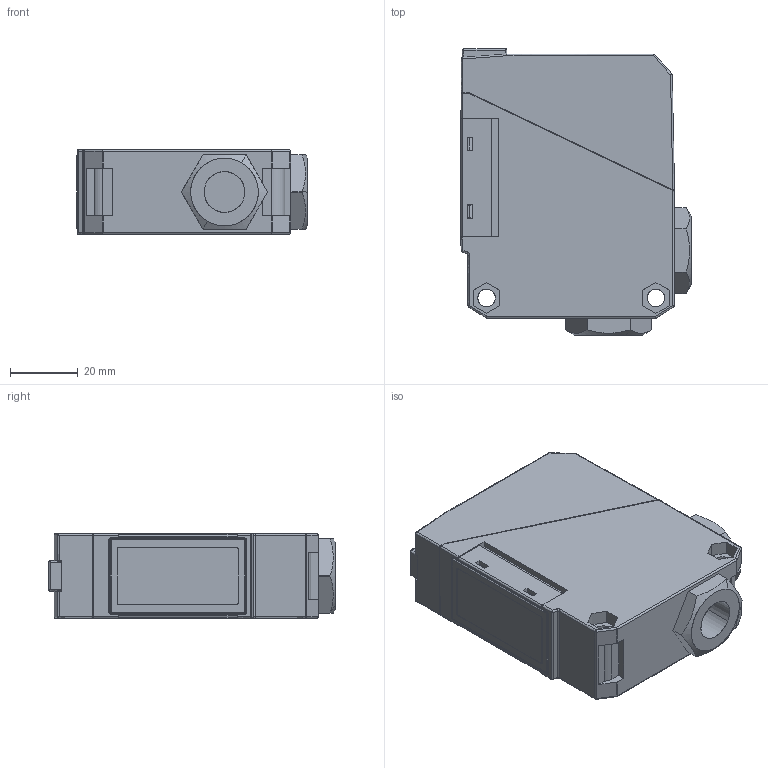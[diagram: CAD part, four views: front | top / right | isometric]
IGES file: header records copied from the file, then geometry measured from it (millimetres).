
Global section: file name: V_full_view(igs).igs; native system: OneSpace Designer 3D IGES; preprocessor: 11.60D  09-Mar-2003; date: 20070829.090856; units: millimetre
Bounding box: 68.2 x 84.6 x 25 mm (x, y, z)
Surface area: 20725.3 mm2 (no closed solid volume)
Topology: 0 solids, 0 shells, 307 faces, 2673 edges, 2673 vertices
Faces by surface type: bspline 291, revolution 16
